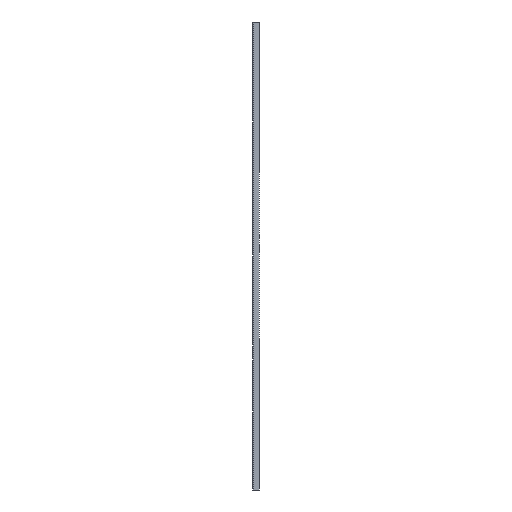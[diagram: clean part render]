
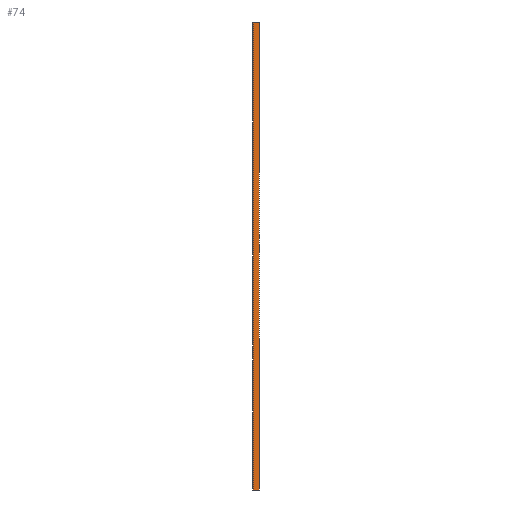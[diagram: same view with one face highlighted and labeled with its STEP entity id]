
A CAD part, left-side view. The second image highlights one B-rep face of the part: STEP entity #74.
In plain terms, the highlighted planar face has unit normal (-1, 0, 0).
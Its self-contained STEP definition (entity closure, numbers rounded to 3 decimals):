
#57 = VERTEX_POINT ( 'NONE', #516 ) ;
#59 = DIRECTION ( 'NONE',  ( 0., 1., 0. ) ) ;
#74 = ADVANCED_FACE ( 'NONE', ( #916 ), #399, .T. ) ;
#105 = EDGE_LOOP ( 'NONE', ( #541, #145, #363, #804 ) ) ;
#139 = VERTEX_POINT ( 'NONE', #794 ) ;
#145 = ORIENTED_EDGE ( 'NONE', *, *, #697, .F. ) ;
#177 = CARTESIAN_POINT ( 'NONE',  ( -801.5, -20., -1250. ) ) ;
#191 = LINE ( 'NONE', #695, #744 ) ;
#260 = DIRECTION ( 'NONE',  ( 0., 0., 1. ) ) ;
#363 = ORIENTED_EDGE ( 'NONE', *, *, #1085, .T. ) ;
#399 = PLANE ( 'NONE',  #753 ) ;
#407 = DIRECTION ( 'NONE',  ( 0., 0., 1. ) ) ;
#461 = EDGE_CURVE ( 'NONE', #57, #906, #883, .T. ) ;
#479 = CARTESIAN_POINT ( 'NONE',  ( -801.5, 0., 150. ) ) ;
#511 = DIRECTION ( 'NONE',  ( 0., 1., 0. ) ) ;
#516 = CARTESIAN_POINT ( 'NONE',  ( -801.5, -20., 150. ) ) ;
#533 = EDGE_CURVE ( 'NONE', #694, #906, #191, .T. ) ;
#541 = ORIENTED_EDGE ( 'NONE', *, *, #533, .F. ) ;
#598 = CARTESIAN_POINT ( 'NONE',  ( -801.5, -20., -1250. ) ) ;
#601 = CARTESIAN_POINT ( 'NONE',  ( -801.5, -20., 150. ) ) ;
#647 = CARTESIAN_POINT ( 'NONE',  ( -801.5, -20., -1250. ) ) ;
#694 = VERTEX_POINT ( 'NONE', #931 ) ;
#695 = CARTESIAN_POINT ( 'NONE',  ( -801.5, 0., -1250. ) ) ;
#697 = EDGE_CURVE ( 'NONE', #139, #694, #1028, .T. ) ;
#720 = VECTOR ( 'NONE', #511, 1000. ) ;
#744 = VECTOR ( 'NONE', #260, 1000. ) ;
#753 = AXIS2_PLACEMENT_3D ( 'NONE', #647, #837, #407 ) ;
#761 = LINE ( 'NONE', #177, #1068 ) ;
#794 = CARTESIAN_POINT ( 'NONE',  ( -801.5, -20., -1250. ) ) ;
#804 = ORIENTED_EDGE ( 'NONE', *, *, #461, .T. ) ;
#837 = DIRECTION ( 'NONE',  ( -1., 0., 0. ) ) ;
#883 = LINE ( 'NONE', #601, #720 ) ;
#906 = VERTEX_POINT ( 'NONE', #479 ) ;
#916 = FACE_OUTER_BOUND ( 'NONE', #105, .T. ) ;
#931 = CARTESIAN_POINT ( 'NONE',  ( -801.5, 0., -1250. ) ) ;
#1028 = LINE ( 'NONE', #598, #1091 ) ;
#1068 = VECTOR ( 'NONE', #1110, 1000. ) ;
#1085 = EDGE_CURVE ( 'NONE', #139, #57, #761, .T. ) ;
#1091 = VECTOR ( 'NONE', #59, 1000. ) ;
#1110 = DIRECTION ( 'NONE',  ( 0., 0., 1. ) ) ;
